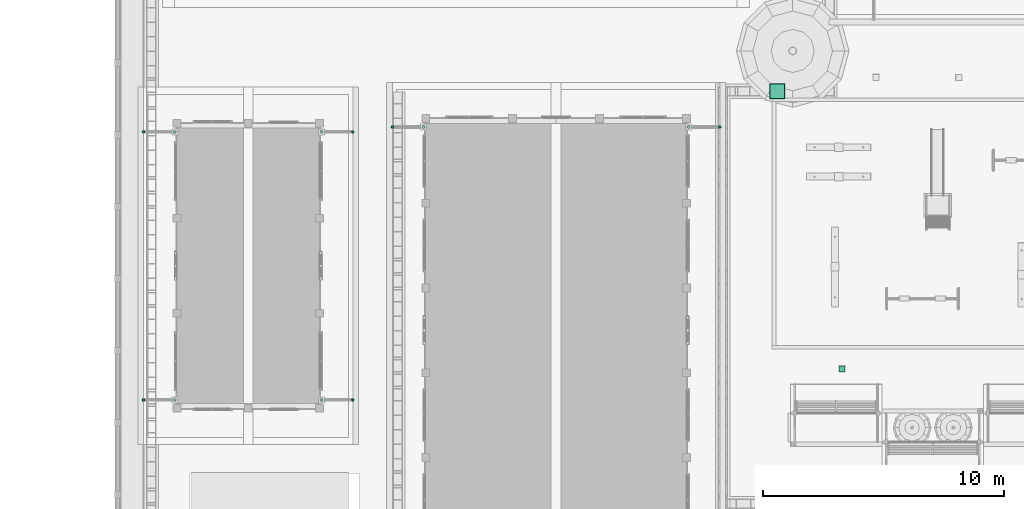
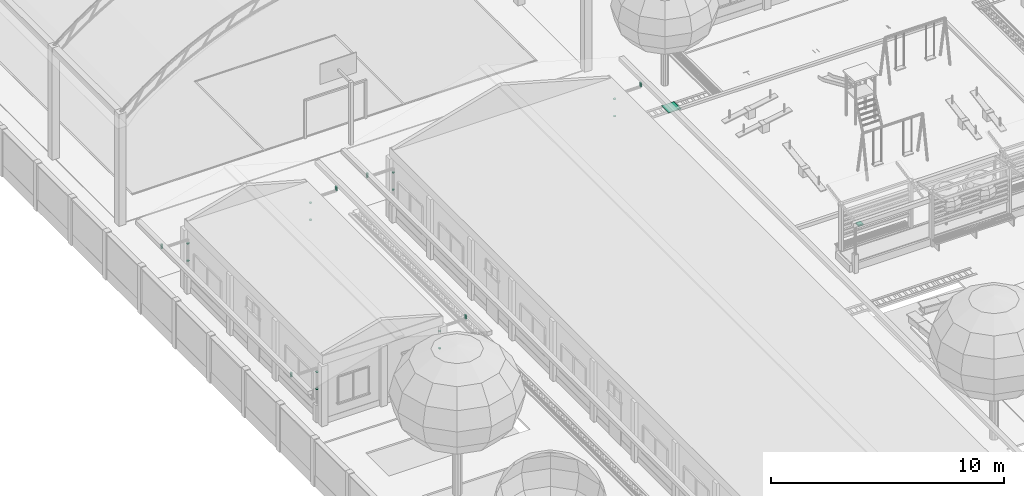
# One storey, part 117 of 166: 18 flow segments, 2 distribution chamber elements, 1 flow terminal.
"""IFC2X3 building model written with IfcOpenShell, lengths in metres."""

from ifc_helpers import new_model, si_unit, origin, origin_with_axes, place, context, subcontext, project, spatial, faceted_brep, element, save


model = new_model("IFC2X3")

# Units and contexts
model_context = context("Model", 3, precision=1e-05, world=origin_with_axes())
body_context = subcontext(model_context, "Body", "Model", "MODEL_VIEW")
ifc_project = project(units=[si_unit("LENGTHUNIT", "METRE"), si_unit("AREAUNIT", "SQUARE_METRE"), si_unit("VOLUMEUNIT", "CUBIC_METRE"), si_unit("PLANEANGLEUNIT", "RADIAN")], contexts=[model_context])

# Site, building, storey
site_placement = place(None, origin_with_axes())
site = spatial("IfcSite", under=ifc_project, at=site_placement, Name="Predio Los Mangos - Morales, San Martín", CompositionType="ELEMENT")
building_placement = place(site_placement, origin())
building = spatial("IfcBuilding", under=site, at=building_placement, Name="Hogar de Refugio Temporal", CompositionType="ELEMENT")
storey_placement = place(building_placement, origin())
storey = spatial("IfcBuildingStorey", under=building, at=storey_placement, Name="NIVEL 1 (NPT +0.00)", CompositionType="ELEMENT", Elevation=0.0)

# Flow segments
flow_segment_1_placement = place(storey_placement, origin())
element("IfcFlowSegment", 1, at=flow_segment_1_placement, inside=storey, Name="montante_boquilla", ObjectType="Montante PVC 4\"", context=body_context, shape_type="Brep", body=[
    faceted_brep([(12.42, 86.905, 3.13), (12.42, 86.905, 2.91), (12.3925, 86.8976, 2.91), (12.3925, 86.8976, 3.13), (12.3724, 86.8775, 2.91), (12.3724, 86.8775, 3.13), (12.365, 86.85, 2.91), (12.365, 86.85, 3.13), (12.3724, 86.8225, 2.91), (12.3724, 86.8225, 3.13), (12.3925, 86.8024, 2.91), (12.3925, 86.8024, 3.13), (12.42, 86.795, 2.91), (12.42, 86.795, 3.13), (12.4475, 86.8024, 2.91), (12.4475, 86.8024, 3.13), (12.4676, 86.8225, 2.91), (12.4676, 86.8225, 3.13), (12.475, 86.85, 2.91), (12.475, 86.85, 3.13), (12.4676, 86.8775, 2.91), (12.4676, 86.8775, 3.13), (12.4475, 86.8976, 2.91), (12.4475, 86.8976, 3.13)], [[[0, 1, 2, 3]], [[3, 2, 4, 5]], [[5, 4, 6, 7]], [[7, 6, 8, 9]], [[9, 8, 10, 11]], [[11, 10, 12, 13]], [[13, 12, 14, 15]], [[15, 14, 16, 17]], [[17, 16, 18, 19]], [[19, 18, 20, 21]], [[2, 1, 22, 20, 18, 16, 14, 12, 10, 8, 6, 4]], [[21, 20, 22, 23]], [[23, 22, 1, 0]], [[0, 3, 5, 7, 9, 11, 13, 15, 17, 19, 21, 23]]]),
])
flow_segment_2_placement = place(storey_placement, origin())
element("IfcFlowSegment", 2, at=flow_segment_2_placement, inside=storey, Name="montante_abrazadera", ObjectType="Montante PVC 4\"", context=body_context, shape_type="Brep", body=[
    faceted_brep([(13.71, 86.788, 1.8), (13.71, 86.788, 1.84), (13.679, 86.7963, 1.84), (13.679, 86.7963, 1.8), (13.6563, 86.819, 1.84), (13.6563, 86.819, 1.8), (13.648, 86.85, 1.84), (13.648, 86.85, 1.8), (13.6563, 86.881, 1.84), (13.6563, 86.881, 1.8), (13.679, 86.9037, 1.84), (13.679, 86.9037, 1.8), (13.71, 86.912, 1.84), (13.71, 86.912, 1.8), (13.741, 86.9037, 1.84), (13.741, 86.9037, 1.8), (13.7637, 86.881, 1.84), (13.7637, 86.881, 1.8), (13.772, 86.85, 1.84), (13.772, 86.85, 1.8), (13.7637, 86.819, 1.84), (13.7637, 86.819, 1.8), (13.741, 86.7963, 1.84), (13.741, 86.7963, 1.8)], [[[0, 1, 2, 3]], [[3, 2, 4, 5]], [[5, 4, 6, 7]], [[7, 6, 8, 9]], [[9, 8, 10, 11]], [[11, 10, 12, 13]], [[13, 12, 14, 15]], [[15, 14, 16, 17]], [[17, 16, 18, 19]], [[19, 18, 20, 21]], [[2, 1, 22, 20, 18, 16, 14, 12, 10, 8, 6, 4]], [[21, 20, 22, 23]], [[23, 22, 1, 0]], [[0, 3, 5, 7, 9, 11, 13, 15, 17, 19, 21, 23]]]),
])
flow_segment_3_placement = place(storey_placement, origin())
element("IfcFlowSegment", 3, at=flow_segment_3_placement, inside=storey, Name="montante_abrazadera", ObjectType="Montante PVC 4\"", context=body_context, shape_type="Brep", body=[
    faceted_brep([(13.71, 86.788, 2.7), (13.71, 86.788, 2.74), (13.679, 86.7963, 2.74), (13.679, 86.7963, 2.7), (13.6563, 86.819, 2.74), (13.6563, 86.819, 2.7), (13.648, 86.85, 2.74), (13.648, 86.85, 2.7), (13.6563, 86.881, 2.74), (13.6563, 86.881, 2.7), (13.679, 86.9037, 2.74), (13.679, 86.9037, 2.7), (13.71, 86.912, 2.74), (13.71, 86.912, 2.7), (13.741, 86.9037, 2.74), (13.741, 86.9037, 2.7), (13.7637, 86.881, 2.74), (13.7637, 86.881, 2.7), (13.772, 86.85, 2.74), (13.772, 86.85, 2.7), (13.7637, 86.819, 2.74), (13.7637, 86.819, 2.7), (13.741, 86.7963, 2.74), (13.741, 86.7963, 2.7)], [[[0, 1, 2, 3]], [[3, 2, 4, 5]], [[5, 4, 6, 7]], [[7, 6, 8, 9]], [[9, 8, 10, 11]], [[11, 10, 12, 13]], [[13, 12, 14, 15]], [[15, 14, 16, 17]], [[17, 16, 18, 19]], [[19, 18, 20, 21]], [[2, 1, 22, 20, 18, 16, 14, 12, 10, 8, 6, 4]], [[21, 20, 22, 23]], [[23, 22, 1, 0]], [[0, 3, 5, 7, 9, 11, 13, 15, 17, 19, 21, 23]]]),
])
flow_segment_4_placement = place(storey_placement, origin())
element("IfcFlowSegment", 4, at=flow_segment_4_placement, inside=storey, Name="montante_boquilla", ObjectType="Montante PVC 4\"", context=body_context, shape_type="Brep", body=[
    faceted_brep([(25.98, 86.905, 3.13), (25.98, 86.905, 2.91), (25.9525, 86.8976, 2.91), (25.9525, 86.8976, 3.13), (25.9324, 86.8775, 2.91), (25.9324, 86.8775, 3.13), (25.925, 86.85, 2.91), (25.925, 86.85, 3.13), (25.9324, 86.8225, 2.91), (25.9324, 86.8225, 3.13), (25.9525, 86.8024, 2.91), (25.9525, 86.8024, 3.13), (25.98, 86.795, 2.91), (25.98, 86.795, 3.13), (26.0075, 86.8024, 2.91), (26.0075, 86.8024, 3.13), (26.0276, 86.8225, 2.91), (26.0276, 86.8225, 3.13), (26.035, 86.85, 2.91), (26.035, 86.85, 3.13), (26.0276, 86.8775, 2.91), (26.0276, 86.8775, 3.13), (26.0075, 86.8976, 2.91), (26.0075, 86.8976, 3.13)], [[[0, 1, 2, 3]], [[3, 2, 4, 5]], [[5, 4, 6, 7]], [[7, 6, 8, 9]], [[9, 8, 10, 11]], [[11, 10, 12, 13]], [[13, 12, 14, 15]], [[15, 14, 16, 17]], [[17, 16, 18, 19]], [[19, 18, 20, 21]], [[2, 1, 22, 20, 18, 16, 14, 12, 10, 8, 6, 4]], [[21, 20, 22, 23]], [[23, 22, 1, 0]], [[0, 3, 5, 7, 9, 11, 13, 15, 17, 19, 21, 23]]]),
])
flow_segment_5_placement = place(storey_placement, origin())
element("IfcFlowSegment", 5, at=flow_segment_5_placement, inside=storey, Name="montante_abrazadera", ObjectType="Montante PVC 4\"", context=body_context, shape_type="Brep", body=[
    faceted_brep([(24.69, 86.788, 1.8), (24.69, 86.788, 1.84), (24.659, 86.7963, 1.84), (24.659, 86.7963, 1.8), (24.6363, 86.819, 1.84), (24.6363, 86.819, 1.8), (24.628, 86.85, 1.84), (24.628, 86.85, 1.8), (24.6363, 86.881, 1.84), (24.6363, 86.881, 1.8), (24.659, 86.9037, 1.84), (24.659, 86.9037, 1.8), (24.69, 86.912, 1.84), (24.69, 86.912, 1.8), (24.721, 86.9037, 1.84), (24.721, 86.9037, 1.8), (24.7437, 86.881, 1.84), (24.7437, 86.881, 1.8), (24.752, 86.85, 1.84), (24.752, 86.85, 1.8), (24.7437, 86.819, 1.84), (24.7437, 86.819, 1.8), (24.721, 86.7963, 1.84), (24.721, 86.7963, 1.8)], [[[0, 1, 2, 3]], [[3, 2, 4, 5]], [[5, 4, 6, 7]], [[7, 6, 8, 9]], [[9, 8, 10, 11]], [[11, 10, 12, 13]], [[13, 12, 14, 15]], [[15, 14, 16, 17]], [[17, 16, 18, 19]], [[19, 18, 20, 21]], [[2, 1, 22, 20, 18, 16, 14, 12, 10, 8, 6, 4]], [[21, 20, 22, 23]], [[23, 22, 1, 0]], [[0, 3, 5, 7, 9, 11, 13, 15, 17, 19, 21, 23]]]),
])
flow_segment_6_placement = place(storey_placement, origin())
element("IfcFlowSegment", 6, at=flow_segment_6_placement, inside=storey, Name="montante_abrazadera", ObjectType="Montante PVC 4\"", context=body_context, shape_type="Brep", body=[
    faceted_brep([(24.69, 86.788, 2.7), (24.69, 86.788, 2.74), (24.659, 86.7963, 2.74), (24.659, 86.7963, 2.7), (24.6363, 86.819, 2.74), (24.6363, 86.819, 2.7), (24.628, 86.85, 2.74), (24.628, 86.85, 2.7), (24.6363, 86.881, 2.74), (24.6363, 86.881, 2.7), (24.659, 86.9037, 2.74), (24.659, 86.9037, 2.7), (24.69, 86.912, 2.74), (24.69, 86.912, 2.7), (24.721, 86.9037, 2.74), (24.721, 86.9037, 2.7), (24.7437, 86.881, 2.74), (24.7437, 86.881, 2.7), (24.752, 86.85, 2.74), (24.752, 86.85, 2.7), (24.7437, 86.819, 2.74), (24.7437, 86.819, 2.7), (24.721, 86.7963, 2.74), (24.721, 86.7963, 2.7)], [[[0, 1, 2, 3]], [[3, 2, 4, 5]], [[5, 4, 6, 7]], [[7, 6, 8, 9]], [[9, 8, 10, 11]], [[11, 10, 12, 13]], [[13, 12, 14, 15]], [[15, 14, 16, 17]], [[17, 16, 18, 19]], [[19, 18, 20, 21]], [[2, 1, 22, 20, 18, 16, 14, 12, 10, 8, 6, 4]], [[21, 20, 22, 23]], [[23, 22, 1, 0]], [[0, 3, 5, 7, 9, 11, 13, 15, 17, 19, 21, 23]]]),
])
flow_segment_7_placement = place(storey_placement, origin())
element("IfcFlowSegment", 7, at=flow_segment_7_placement, inside=storey, Name="montante_boquilla", ObjectType="Montante PVC 4\"", context=body_context, shape_type="Brep", body=[
    faceted_brep([(2.12, 75.605, 3.13), (2.12, 75.605, 2.91), (2.0925, 75.5976, 2.91), (2.0925, 75.5976, 3.13), (2.0724, 75.5775, 2.91), (2.0724, 75.5775, 3.13), (2.065, 75.55, 2.91), (2.065, 75.55, 3.13), (2.0724, 75.5225, 2.91), (2.0724, 75.5225, 3.13), (2.0925, 75.5024, 2.91), (2.0925, 75.5024, 3.13), (2.12, 75.495, 2.91), (2.12, 75.495, 3.13), (2.1475, 75.5024, 2.91), (2.1475, 75.5024, 3.13), (2.1676, 75.5225, 2.91), (2.1676, 75.5225, 3.13), (2.175, 75.55, 2.91), (2.175, 75.55, 3.13), (2.1676, 75.5775, 2.91), (2.1676, 75.5775, 3.13), (2.1475, 75.5976, 2.91), (2.1475, 75.5976, 3.13)], [[[0, 1, 2, 3]], [[3, 2, 4, 5]], [[5, 4, 6, 7]], [[7, 6, 8, 9]], [[9, 8, 10, 11]], [[11, 10, 12, 13]], [[13, 12, 14, 15]], [[15, 14, 16, 17]], [[17, 16, 18, 19]], [[19, 18, 20, 21]], [[2, 1, 22, 20, 18, 16, 14, 12, 10, 8, 6, 4]], [[21, 20, 22, 23]], [[23, 22, 1, 0]], [[0, 3, 5, 7, 9, 11, 13, 15, 17, 19, 21, 23]]]),
])
flow_segment_8_placement = place(storey_placement, origin())
element("IfcFlowSegment", 8, at=flow_segment_8_placement, inside=storey, Name="montante_abrazadera", ObjectType="Montante PVC 4\"", context=body_context, shape_type="Brep", body=[
    faceted_brep([(3.41, 75.488, 1.8), (3.41, 75.488, 1.84), (3.379, 75.4963, 1.84), (3.379, 75.4963, 1.8), (3.3563, 75.519, 1.84), (3.3563, 75.519, 1.8), (3.348, 75.55, 1.84), (3.348, 75.55, 1.8), (3.3563, 75.581, 1.84), (3.3563, 75.581, 1.8), (3.379, 75.6037, 1.84), (3.379, 75.6037, 1.8), (3.41, 75.612, 1.84), (3.41, 75.612, 1.8), (3.441, 75.6037, 1.84), (3.441, 75.6037, 1.8), (3.4637, 75.581, 1.84), (3.4637, 75.581, 1.8), (3.472, 75.55, 1.84), (3.472, 75.55, 1.8), (3.4637, 75.519, 1.84), (3.4637, 75.519, 1.8), (3.441, 75.4963, 1.84), (3.441, 75.4963, 1.8)], [[[0, 1, 2, 3]], [[3, 2, 4, 5]], [[5, 4, 6, 7]], [[7, 6, 8, 9]], [[9, 8, 10, 11]], [[11, 10, 12, 13]], [[13, 12, 14, 15]], [[15, 14, 16, 17]], [[17, 16, 18, 19]], [[19, 18, 20, 21]], [[2, 1, 22, 20, 18, 16, 14, 12, 10, 8, 6, 4]], [[21, 20, 22, 23]], [[23, 22, 1, 0]], [[0, 3, 5, 7, 9, 11, 13, 15, 17, 19, 21, 23]]]),
])
flow_segment_9_placement = place(storey_placement, origin())
element("IfcFlowSegment", 9, at=flow_segment_9_placement, inside=storey, Name="montante_abrazadera", ObjectType="Montante PVC 4\"", context=body_context, shape_type="Brep", body=[
    faceted_brep([(3.41, 75.488, 2.7), (3.41, 75.488, 2.74), (3.379, 75.4963, 2.74), (3.379, 75.4963, 2.7), (3.3563, 75.519, 2.74), (3.3563, 75.519, 2.7), (3.348, 75.55, 2.74), (3.348, 75.55, 2.7), (3.3563, 75.581, 2.74), (3.3563, 75.581, 2.7), (3.379, 75.6037, 2.74), (3.379, 75.6037, 2.7), (3.41, 75.612, 2.74), (3.41, 75.612, 2.7), (3.441, 75.6037, 2.74), (3.441, 75.6037, 2.7), (3.4637, 75.581, 2.74), (3.4637, 75.581, 2.7), (3.472, 75.55, 2.74), (3.472, 75.55, 2.7), (3.4637, 75.519, 2.74), (3.4637, 75.519, 2.7), (3.441, 75.4963, 2.74), (3.441, 75.4963, 2.7)], [[[0, 1, 2, 3]], [[3, 2, 4, 5]], [[5, 4, 6, 7]], [[7, 6, 8, 9]], [[9, 8, 10, 11]], [[11, 10, 12, 13]], [[13, 12, 14, 15]], [[15, 14, 16, 17]], [[17, 16, 18, 19]], [[19, 18, 20, 21]], [[2, 1, 22, 20, 18, 16, 14, 12, 10, 8, 6, 4]], [[21, 20, 22, 23]], [[23, 22, 1, 0]], [[0, 3, 5, 7, 9, 11, 13, 15, 17, 19, 21, 23]]]),
])
flow_segment_10_placement = place(storey_placement, origin())
element("IfcFlowSegment", 10, at=flow_segment_10_placement, inside=storey, Name="montante_boquilla", ObjectType="Montante PVC 4\"", context=body_context, shape_type="Brep", body=[
    faceted_brep([(2.12, 86.705, 3.13), (2.12, 86.705, 2.91), (2.0925, 86.6976, 2.91), (2.0925, 86.6976, 3.13), (2.0724, 86.6775, 2.91), (2.0724, 86.6775, 3.13), (2.065, 86.65, 2.91), (2.065, 86.65, 3.13), (2.0724, 86.6225, 2.91), (2.0724, 86.6225, 3.13), (2.0925, 86.6024, 2.91), (2.0925, 86.6024, 3.13), (2.12, 86.595, 2.91), (2.12, 86.595, 3.13), (2.1475, 86.6024, 2.91), (2.1475, 86.6024, 3.13), (2.1676, 86.6225, 2.91), (2.1676, 86.6225, 3.13), (2.175, 86.65, 2.91), (2.175, 86.65, 3.13), (2.1676, 86.6775, 2.91), (2.1676, 86.6775, 3.13), (2.1475, 86.6976, 2.91), (2.1475, 86.6976, 3.13)], [[[0, 1, 2, 3]], [[3, 2, 4, 5]], [[5, 4, 6, 7]], [[7, 6, 8, 9]], [[9, 8, 10, 11]], [[11, 10, 12, 13]], [[13, 12, 14, 15]], [[15, 14, 16, 17]], [[17, 16, 18, 19]], [[19, 18, 20, 21]], [[2, 1, 22, 20, 18, 16, 14, 12, 10, 8, 6, 4]], [[21, 20, 22, 23]], [[23, 22, 1, 0]], [[0, 3, 5, 7, 9, 11, 13, 15, 17, 19, 21, 23]]]),
])
flow_segment_11_placement = place(storey_placement, origin())
element("IfcFlowSegment", 11, at=flow_segment_11_placement, inside=storey, Name="montante_abrazadera", ObjectType="Montante PVC 4\"", context=body_context, shape_type="Brep", body=[
    faceted_brep([(3.41, 86.588, 1.8), (3.41, 86.588, 1.84), (3.379, 86.5963, 1.84), (3.379, 86.5963, 1.8), (3.3563, 86.619, 1.84), (3.3563, 86.619, 1.8), (3.348, 86.65, 1.84), (3.348, 86.65, 1.8), (3.3563, 86.681, 1.84), (3.3563, 86.681, 1.8), (3.379, 86.7037, 1.84), (3.379, 86.7037, 1.8), (3.41, 86.712, 1.84), (3.41, 86.712, 1.8), (3.441, 86.7037, 1.84), (3.441, 86.7037, 1.8), (3.4637, 86.681, 1.84), (3.4637, 86.681, 1.8), (3.472, 86.65, 1.84), (3.472, 86.65, 1.8), (3.4637, 86.619, 1.84), (3.4637, 86.619, 1.8), (3.441, 86.5963, 1.84), (3.441, 86.5963, 1.8)], [[[0, 1, 2, 3]], [[3, 2, 4, 5]], [[5, 4, 6, 7]], [[7, 6, 8, 9]], [[9, 8, 10, 11]], [[11, 10, 12, 13]], [[13, 12, 14, 15]], [[15, 14, 16, 17]], [[17, 16, 18, 19]], [[19, 18, 20, 21]], [[2, 1, 22, 20, 18, 16, 14, 12, 10, 8, 6, 4]], [[21, 20, 22, 23]], [[23, 22, 1, 0]], [[0, 3, 5, 7, 9, 11, 13, 15, 17, 19, 21, 23]]]),
])
flow_segment_12_placement = place(storey_placement, origin())
element("IfcFlowSegment", 12, at=flow_segment_12_placement, inside=storey, Name="montante_abrazadera", ObjectType="Montante PVC 4\"", context=body_context, shape_type="Brep", body=[
    faceted_brep([(3.41, 86.588, 2.7), (3.41, 86.588, 2.74), (3.379, 86.5963, 2.74), (3.379, 86.5963, 2.7), (3.3563, 86.619, 2.74), (3.3563, 86.619, 2.7), (3.348, 86.65, 2.74), (3.348, 86.65, 2.7), (3.3563, 86.681, 2.74), (3.3563, 86.681, 2.7), (3.379, 86.7037, 2.74), (3.379, 86.7037, 2.7), (3.41, 86.712, 2.74), (3.41, 86.712, 2.7), (3.441, 86.7037, 2.74), (3.441, 86.7037, 2.7), (3.4637, 86.681, 2.74), (3.4637, 86.681, 2.7), (3.472, 86.65, 2.74), (3.472, 86.65, 2.7), (3.4637, 86.619, 2.74), (3.4637, 86.619, 2.7), (3.441, 86.5963, 2.74), (3.441, 86.5963, 2.7)], [[[0, 1, 2, 3]], [[3, 2, 4, 5]], [[5, 4, 6, 7]], [[7, 6, 8, 9]], [[9, 8, 10, 11]], [[11, 10, 12, 13]], [[13, 12, 14, 15]], [[15, 14, 16, 17]], [[17, 16, 18, 19]], [[19, 18, 20, 21]], [[2, 1, 22, 20, 18, 16, 14, 12, 10, 8, 6, 4]], [[21, 20, 22, 23]], [[23, 22, 1, 0]], [[0, 3, 5, 7, 9, 11, 13, 15, 17, 19, 21, 23]]]),
])
flow_segment_13_placement = place(storey_placement, origin())
element("IfcFlowSegment", 13, at=flow_segment_13_placement, inside=storey, Name="montante_boquilla", ObjectType="Montante PVC 4\"", context=body_context, shape_type="Brep", body=[
    faceted_brep([(10.78, 75.605, 3.13), (10.78, 75.605, 2.91), (10.7525, 75.5976, 2.91), (10.7525, 75.5976, 3.13), (10.7324, 75.5775, 2.91), (10.7324, 75.5775, 3.13), (10.725, 75.55, 2.91), (10.725, 75.55, 3.13), (10.7324, 75.5225, 2.91), (10.7324, 75.5225, 3.13), (10.7525, 75.5024, 2.91), (10.7525, 75.5024, 3.13), (10.78, 75.495, 2.91), (10.78, 75.495, 3.13), (10.8075, 75.5024, 2.91), (10.8075, 75.5024, 3.13), (10.8276, 75.5225, 2.91), (10.8276, 75.5225, 3.13), (10.835, 75.55, 2.91), (10.835, 75.55, 3.13), (10.8276, 75.5775, 2.91), (10.8276, 75.5775, 3.13), (10.8075, 75.5976, 2.91), (10.8075, 75.5976, 3.13)], [[[0, 1, 2, 3]], [[3, 2, 4, 5]], [[5, 4, 6, 7]], [[7, 6, 8, 9]], [[9, 8, 10, 11]], [[11, 10, 12, 13]], [[13, 12, 14, 15]], [[15, 14, 16, 17]], [[17, 16, 18, 19]], [[19, 18, 20, 21]], [[2, 1, 22, 20, 18, 16, 14, 12, 10, 8, 6, 4]], [[21, 20, 22, 23]], [[23, 22, 1, 0]], [[0, 3, 5, 7, 9, 11, 13, 15, 17, 19, 21, 23]]]),
])
flow_segment_14_placement = place(storey_placement, origin())
element("IfcFlowSegment", 14, at=flow_segment_14_placement, inside=storey, Name="montante_abrazadera", ObjectType="Montante PVC 4\"", context=body_context, shape_type="Brep", body=[
    faceted_brep([(9.49, 75.488, 1.8), (9.49, 75.488, 1.84), (9.459, 75.4963, 1.84), (9.459, 75.4963, 1.8), (9.4363, 75.519, 1.84), (9.4363, 75.519, 1.8), (9.428, 75.55, 1.84), (9.428, 75.55, 1.8), (9.4363, 75.581, 1.84), (9.4363, 75.581, 1.8), (9.459, 75.6037, 1.84), (9.459, 75.6037, 1.8), (9.49, 75.612, 1.84), (9.49, 75.612, 1.8), (9.521, 75.6037, 1.84), (9.521, 75.6037, 1.8), (9.5437, 75.581, 1.84), (9.5437, 75.581, 1.8), (9.552, 75.55, 1.84), (9.552, 75.55, 1.8), (9.5437, 75.519, 1.84), (9.5437, 75.519, 1.8), (9.521, 75.4963, 1.84), (9.521, 75.4963, 1.8)], [[[0, 1, 2, 3]], [[3, 2, 4, 5]], [[5, 4, 6, 7]], [[7, 6, 8, 9]], [[9, 8, 10, 11]], [[11, 10, 12, 13]], [[13, 12, 14, 15]], [[15, 14, 16, 17]], [[17, 16, 18, 19]], [[19, 18, 20, 21]], [[2, 1, 22, 20, 18, 16, 14, 12, 10, 8, 6, 4]], [[21, 20, 22, 23]], [[23, 22, 1, 0]], [[0, 3, 5, 7, 9, 11, 13, 15, 17, 19, 21, 23]]]),
])
flow_segment_15_placement = place(storey_placement, origin())
element("IfcFlowSegment", 15, at=flow_segment_15_placement, inside=storey, Name="montante_abrazadera", ObjectType="Montante PVC 4\"", context=body_context, shape_type="Brep", body=[
    faceted_brep([(9.49, 75.488, 2.7), (9.49, 75.488, 2.74), (9.459, 75.4963, 2.74), (9.459, 75.4963, 2.7), (9.4363, 75.519, 2.74), (9.4363, 75.519, 2.7), (9.428, 75.55, 2.74), (9.428, 75.55, 2.7), (9.4363, 75.581, 2.74), (9.4363, 75.581, 2.7), (9.459, 75.6037, 2.74), (9.459, 75.6037, 2.7), (9.49, 75.612, 2.74), (9.49, 75.612, 2.7), (9.521, 75.6037, 2.74), (9.521, 75.6037, 2.7), (9.5437, 75.581, 2.74), (9.5437, 75.581, 2.7), (9.552, 75.55, 2.74), (9.552, 75.55, 2.7), (9.5437, 75.519, 2.74), (9.5437, 75.519, 2.7), (9.521, 75.4963, 2.74), (9.521, 75.4963, 2.7)], [[[0, 1, 2, 3]], [[3, 2, 4, 5]], [[5, 4, 6, 7]], [[7, 6, 8, 9]], [[9, 8, 10, 11]], [[11, 10, 12, 13]], [[13, 12, 14, 15]], [[15, 14, 16, 17]], [[17, 16, 18, 19]], [[19, 18, 20, 21]], [[2, 1, 22, 20, 18, 16, 14, 12, 10, 8, 6, 4]], [[21, 20, 22, 23]], [[23, 22, 1, 0]], [[0, 3, 5, 7, 9, 11, 13, 15, 17, 19, 21, 23]]]),
])
flow_segment_16_placement = place(storey_placement, origin())
element("IfcFlowSegment", 16, at=flow_segment_16_placement, inside=storey, Name="montante_boquilla", ObjectType="Montante PVC 4\"", context=body_context, shape_type="Brep", body=[
    faceted_brep([(10.78, 86.705, 3.13), (10.78, 86.705, 2.91), (10.7525, 86.6976, 2.91), (10.7525, 86.6976, 3.13), (10.7324, 86.6775, 2.91), (10.7324, 86.6775, 3.13), (10.725, 86.65, 2.91), (10.725, 86.65, 3.13), (10.7324, 86.6225, 2.91), (10.7324, 86.6225, 3.13), (10.7525, 86.6024, 2.91), (10.7525, 86.6024, 3.13), (10.78, 86.595, 2.91), (10.78, 86.595, 3.13), (10.8075, 86.6024, 2.91), (10.8075, 86.6024, 3.13), (10.8276, 86.6225, 2.91), (10.8276, 86.6225, 3.13), (10.835, 86.65, 2.91), (10.835, 86.65, 3.13), (10.8276, 86.6775, 2.91), (10.8276, 86.6775, 3.13), (10.8075, 86.6976, 2.91), (10.8075, 86.6976, 3.13)], [[[0, 1, 2, 3]], [[3, 2, 4, 5]], [[5, 4, 6, 7]], [[7, 6, 8, 9]], [[9, 8, 10, 11]], [[11, 10, 12, 13]], [[13, 12, 14, 15]], [[15, 14, 16, 17]], [[17, 16, 18, 19]], [[19, 18, 20, 21]], [[2, 1, 22, 20, 18, 16, 14, 12, 10, 8, 6, 4]], [[21, 20, 22, 23]], [[23, 22, 1, 0]], [[0, 3, 5, 7, 9, 11, 13, 15, 17, 19, 21, 23]]]),
])
flow_segment_17_placement = place(storey_placement, origin())
element("IfcFlowSegment", 17, at=flow_segment_17_placement, inside=storey, Name="montante_abrazadera", ObjectType="Montante PVC 4\"", context=body_context, shape_type="Brep", body=[
    faceted_brep([(9.49, 86.588, 1.8), (9.49, 86.588, 1.84), (9.459, 86.5963, 1.84), (9.459, 86.5963, 1.8), (9.4363, 86.619, 1.84), (9.4363, 86.619, 1.8), (9.428, 86.65, 1.84), (9.428, 86.65, 1.8), (9.4363, 86.681, 1.84), (9.4363, 86.681, 1.8), (9.459, 86.7037, 1.84), (9.459, 86.7037, 1.8), (9.49, 86.712, 1.84), (9.49, 86.712, 1.8), (9.521, 86.7037, 1.84), (9.521, 86.7037, 1.8), (9.5437, 86.681, 1.84), (9.5437, 86.681, 1.8), (9.552, 86.65, 1.84), (9.552, 86.65, 1.8), (9.5437, 86.619, 1.84), (9.5437, 86.619, 1.8), (9.521, 86.5963, 1.84), (9.521, 86.5963, 1.8)], [[[0, 1, 2, 3]], [[3, 2, 4, 5]], [[5, 4, 6, 7]], [[7, 6, 8, 9]], [[9, 8, 10, 11]], [[11, 10, 12, 13]], [[13, 12, 14, 15]], [[15, 14, 16, 17]], [[17, 16, 18, 19]], [[19, 18, 20, 21]], [[2, 1, 22, 20, 18, 16, 14, 12, 10, 8, 6, 4]], [[21, 20, 22, 23]], [[23, 22, 1, 0]], [[0, 3, 5, 7, 9, 11, 13, 15, 17, 19, 21, 23]]]),
])
flow_segment_18_placement = place(storey_placement, origin())
element("IfcFlowSegment", 18, at=flow_segment_18_placement, inside=storey, Name="montante_abrazadera", ObjectType="Montante PVC 4\"", context=body_context, shape_type="Brep", body=[
    faceted_brep([(9.49, 86.588, 2.7), (9.49, 86.588, 2.74), (9.459, 86.5963, 2.74), (9.459, 86.5963, 2.7), (9.4363, 86.619, 2.74), (9.4363, 86.619, 2.7), (9.428, 86.65, 2.74), (9.428, 86.65, 2.7), (9.4363, 86.681, 2.74), (9.4363, 86.681, 2.7), (9.459, 86.7037, 2.74), (9.459, 86.7037, 2.7), (9.49, 86.712, 2.74), (9.49, 86.712, 2.7), (9.521, 86.7037, 2.74), (9.521, 86.7037, 2.7), (9.5437, 86.681, 2.74), (9.5437, 86.681, 2.7), (9.552, 86.65, 2.74), (9.552, 86.65, 2.7), (9.5437, 86.619, 2.74), (9.5437, 86.619, 2.7), (9.521, 86.5963, 2.74), (9.521, 86.5963, 2.7)], [[[0, 1, 2, 3]], [[3, 2, 4, 5]], [[5, 4, 6, 7]], [[7, 6, 8, 9]], [[9, 8, 10, 11]], [[11, 10, 12, 13]], [[13, 12, 14, 15]], [[15, 14, 16, 17]], [[17, 16, 18, 19]], [[19, 18, 20, 21]], [[2, 1, 22, 20, 18, 16, 14, 12, 10, 8, 6, 4]], [[21, 20, 22, 23]], [[23, 22, 1, 0]], [[0, 3, 5, 7, 9, 11, 13, 15, 17, 19, 21, 23]]]),
])

# Flow terminal
flow_terminal_placement = place(storey_placement, origin())
element("IfcFlowTerminal", 19, at=flow_terminal_placement, inside=storey, Name="sumidero_fondo", ObjectType="Sumidero con rejilla", context=body_context, shape_type="Brep", body=[
    faceted_brep([(30.922, 76.702, -0.02), (30.922, 76.952, -0.02), (31.172, 76.952, -0.02), (31.172, 76.702, -0.02), (30.922, 76.702, 0.064), (31.172, 76.702, 0.064), (31.172, 76.952, 0.064), (30.922, 76.952, 0.064)], [[[0, 1, 2, 3]], [[4, 5, 6, 7]], [[0, 3, 5, 4]], [[3, 2, 6, 5]], [[2, 1, 7, 6]], [[1, 0, 4, 7]]]),
])

# Distribution chamber elements
distribution_chamber_element_1_placement = place(storey_placement, origin())
element("IfcDistributionChamberElement", 20, at=distribution_chamber_element_1_placement, inside=storey, Name="tapa_insp_junta", ObjectType="Tapa de inspección", context=body_context, shape_type="Brep", body=[
    faceted_brep([(28.035, 88.009, 0.082), (28.035, 88.649, 0.082), (28.675, 88.649, 0.082), (28.675, 88.009, 0.082), (28.035, 88.009, 0.096), (28.675, 88.009, 0.096), (28.675, 88.649, 0.096), (28.035, 88.649, 0.096)], [[[0, 1, 2, 3]], [[4, 5, 6, 7]], [[0, 3, 5, 4]], [[3, 2, 6, 5]], [[2, 1, 7, 6]], [[1, 0, 4, 7]]]),
])
distribution_chamber_element_2_placement = place(storey_placement, origin())
element("IfcDistributionChamberElement", 21, at=distribution_chamber_element_2_placement, inside=storey, Name="tapa_inspeccion", ObjectType="Tapa de inspección", context=body_context, shape_type="Brep", body=[
    faceted_brep([(28.055, 88.029, 0.082), (28.055, 88.629, 0.082), (28.655, 88.629, 0.082), (28.655, 88.029, 0.082), (28.055, 88.029, 0.104), (28.655, 88.029, 0.104), (28.655, 88.629, 0.104), (28.055, 88.629, 0.104)], [[[0, 1, 2, 3]], [[4, 5, 6, 7]], [[0, 3, 5, 4]], [[3, 2, 6, 5]], [[2, 1, 7, 6]], [[1, 0, 4, 7]]]),
])

save(model, "model.ifc")
